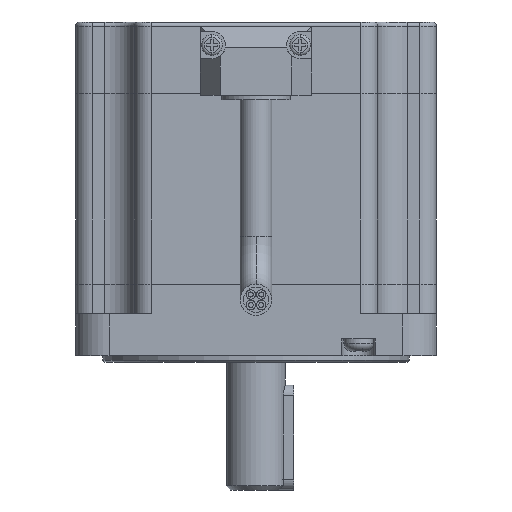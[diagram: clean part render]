
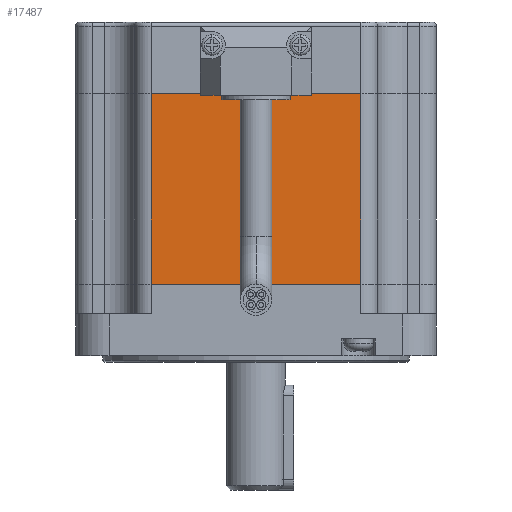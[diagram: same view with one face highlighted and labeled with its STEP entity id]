
A CAD part, front view. The second image highlights one B-rep face of the part: STEP entity #17487.
In plain terms, the highlighted planar face has unit normal (0, -1, 0).
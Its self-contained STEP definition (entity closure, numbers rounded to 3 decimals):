
#123 = VECTOR ( 'NONE', #10321, 1000. ) ;
#593 = VERTEX_POINT ( 'NONE', #3168 ) ;
#684 = LINE ( 'NONE', #1355, #11772 ) ;
#880 = EDGE_CURVE ( 'NONE', #18197, #17764, #7439, .T. ) ;
#1085 = EDGE_CURVE ( 'NONE', #593, #12977, #8999, .T. ) ;
#1294 = VECTOR ( 'NONE', #2419, 1000. ) ;
#1355 = CARTESIAN_POINT ( 'NONE',  ( -25., -43., 17.005 ) ) ;
#1437 = EDGE_CURVE ( 'NONE', #2286, #18197, #17653, .T. ) ;
#1490 = CARTESIAN_POINT ( 'NONE',  ( -8.25, -43., 62. ) ) ;
#1696 = CARTESIAN_POINT ( 'NONE',  ( 13.25, -43., 62. ) ) ;
#1697 = DIRECTION ( 'NONE',  ( 1., 0., 0. ) ) ;
#1766 = CARTESIAN_POINT ( 'NONE',  ( -8.25, -43., 61. ) ) ;
#1880 = ORIENTED_EDGE ( 'NONE', *, *, #7422, .T. ) ;
#2087 = CARTESIAN_POINT ( 'NONE',  ( 8.25, -43., 62. ) ) ;
#2286 = VERTEX_POINT ( 'NONE', #3124 ) ;
#2337 = EDGE_CURVE ( 'NONE', #18543, #21208, #21232, .T. ) ;
#2419 = DIRECTION ( 'NONE',  ( 0., 0., 1. ) ) ;
#2438 = ORIENTED_EDGE ( 'NONE', *, *, #2337, .F. ) ;
#2498 = VERTEX_POINT ( 'NONE', #10391 ) ;
#2918 = EDGE_LOOP ( 'NONE', ( #16956, #4158, #14154, #6804, #1880, #19034, #2925, #7041, #14309, #2438, #14664, #11436 ) ) ;
#2925 = ORIENTED_EDGE ( 'NONE', *, *, #1085, .T. ) ;
#3076 = VECTOR ( 'NONE', #3541, 1000. ) ;
#3124 = CARTESIAN_POINT ( 'NONE',  ( -13.25, -43., 62.49 ) ) ;
#3168 = CARTESIAN_POINT ( 'NONE',  ( 25., -43., 17.005 ) ) ;
#3541 = DIRECTION ( 'NONE',  ( 1., 0., 0. ) ) ;
#3680 = CARTESIAN_POINT ( 'NONE',  ( 13.25, -43., 62. ) ) ;
#4062 = AXIS2_PLACEMENT_3D ( 'NONE', #5359, #8590, #19863 ) ;
#4158 = ORIENTED_EDGE ( 'NONE', *, *, #880, .F. ) ;
#4204 = VERTEX_POINT ( 'NONE', #20692 ) ;
#4473 = DIRECTION ( 'NONE',  ( 0., 0., 1. ) ) ;
#5359 = CARTESIAN_POINT ( 'NONE',  ( 43., -43., 79.5 ) ) ;
#5449 = DIRECTION ( 'NONE',  ( -1., 0., 0. ) ) ;
#5638 = EDGE_CURVE ( 'NONE', #12977, #10955, #7598, .T. ) ;
#5789 = VERTEX_POINT ( 'NONE', #7068 ) ;
#6436 = VECTOR ( 'NONE', #16443, 1000. ) ;
#6717 = CARTESIAN_POINT ( 'NONE',  ( 8.25, -43., 61. ) ) ;
#6739 = LINE ( 'NONE', #19546, #13655 ) ;
#6804 = ORIENTED_EDGE ( 'NONE', *, *, #19804, .T. ) ;
#6867 = DIRECTION ( 'NONE',  ( 0., 0., 1. ) ) ;
#7041 = ORIENTED_EDGE ( 'NONE', *, *, #5638, .T. ) ;
#7068 = CARTESIAN_POINT ( 'NONE',  ( -8.25, -43., 61. ) ) ;
#7118 = CARTESIAN_POINT ( 'NONE',  ( 43., -43., 17.005 ) ) ;
#7422 = EDGE_CURVE ( 'NONE', #18431, #4204, #684, .T. ) ;
#7439 = LINE ( 'NONE', #16583, #3076 ) ;
#7598 = LINE ( 'NONE', #15448, #123 ) ;
#7865 = DIRECTION ( 'NONE',  ( -1., 0., 0. ) ) ;
#8151 = VECTOR ( 'NONE', #20035, 1000. ) ;
#8224 = VECTOR ( 'NONE', #1697, 1000. ) ;
#8269 = EDGE_CURVE ( 'NONE', #2498, #18543, #21177, .T. ) ;
#8545 = LINE ( 'NONE', #7118, #9088 ) ;
#8590 = DIRECTION ( 'NONE',  ( 0., 1., 0. ) ) ;
#8646 = EDGE_CURVE ( 'NONE', #593, #4204, #8545, .T. ) ;
#8999 = LINE ( 'NONE', #18038, #1294 ) ;
#9088 = VECTOR ( 'NONE', #5449, 1000. ) ;
#9466 = FACE_OUTER_BOUND ( 'NONE', #2918, .T. ) ;
#9535 = EDGE_CURVE ( 'NONE', #21208, #10955, #10832, .T. ) ;
#10321 = DIRECTION ( 'NONE',  ( -1., 0., 0. ) ) ;
#10391 = CARTESIAN_POINT ( 'NONE',  ( 8.25, -43., 61. ) ) ;
#10611 = DIRECTION ( 'NONE',  ( 0., 0., -1. ) ) ;
#10832 = LINE ( 'NONE', #11698, #6436 ) ;
#10836 = LINE ( 'NONE', #1766, #8224 ) ;
#10955 = VERTEX_POINT ( 'NONE', #15188 ) ;
#11028 = VECTOR ( 'NONE', #4473, 1000. ) ;
#11179 = CARTESIAN_POINT ( 'NONE',  ( -13.25, -43., 62. ) ) ;
#11264 = CARTESIAN_POINT ( 'NONE',  ( -8.25, -43., 61. ) ) ;
#11285 = LINE ( 'NONE', #11264, #11028 ) ;
#11354 = DIRECTION ( 'NONE',  ( 0., 0., -1. ) ) ;
#11436 = ORIENTED_EDGE ( 'NONE', *, *, #20946, .F. ) ;
#11698 = CARTESIAN_POINT ( 'NONE',  ( 13.25, -43., 78.5 ) ) ;
#11772 = VECTOR ( 'NONE', #11354, 1000. ) ;
#12059 = CARTESIAN_POINT ( 'NONE',  ( -13.25, -43., 78.5 ) ) ;
#12977 = VERTEX_POINT ( 'NONE', #14688 ) ;
#13655 = VECTOR ( 'NONE', #7865, 1000. ) ;
#13781 = CARTESIAN_POINT ( 'NONE',  ( -25., -43., 62.49 ) ) ;
#14154 = ORIENTED_EDGE ( 'NONE', *, *, #1437, .F. ) ;
#14309 = ORIENTED_EDGE ( 'NONE', *, *, #9535, .F. ) ;
#14664 = ORIENTED_EDGE ( 'NONE', *, *, #8269, .F. ) ;
#14688 = CARTESIAN_POINT ( 'NONE',  ( 25., -43., 62.49 ) ) ;
#15188 = CARTESIAN_POINT ( 'NONE',  ( 13.25, -43., 62.49 ) ) ;
#15448 = CARTESIAN_POINT ( 'NONE',  ( 0., -43., 62.49 ) ) ;
#15900 = VECTOR ( 'NONE', #10611, 1000. ) ;
#16443 = DIRECTION ( 'NONE',  ( 0., 0., 1. ) ) ;
#16583 = CARTESIAN_POINT ( 'NONE',  ( 13.25, -43., 62. ) ) ;
#16784 = VECTOR ( 'NONE', #6867, 1000. ) ;
#16828 = PLANE ( 'NONE',  #4062 ) ;
#16956 = ORIENTED_EDGE ( 'NONE', *, *, #17170, .T. ) ;
#17170 = EDGE_CURVE ( 'NONE', #5789, #17764, #11285, .T. ) ;
#17487 = ADVANCED_FACE ( 'NONE', ( #9466 ), #16828, .F. ) ;
#17653 = LINE ( 'NONE', #12059, #15900 ) ;
#17764 = VERTEX_POINT ( 'NONE', #1490 ) ;
#18038 = CARTESIAN_POINT ( 'NONE',  ( 25., -43., 62.49 ) ) ;
#18197 = VERTEX_POINT ( 'NONE', #11179 ) ;
#18431 = VERTEX_POINT ( 'NONE', #13781 ) ;
#18543 = VERTEX_POINT ( 'NONE', #2087 ) ;
#19034 = ORIENTED_EDGE ( 'NONE', *, *, #8646, .F. ) ;
#19546 = CARTESIAN_POINT ( 'NONE',  ( 0., -43., 62.49 ) ) ;
#19804 = EDGE_CURVE ( 'NONE', #2286, #18431, #6739, .T. ) ;
#19863 = DIRECTION ( 'NONE',  ( 0., 0., 1. ) ) ;
#20035 = DIRECTION ( 'NONE',  ( 1., 0., 0. ) ) ;
#20692 = CARTESIAN_POINT ( 'NONE',  ( -25., -43., 17.005 ) ) ;
#20946 = EDGE_CURVE ( 'NONE', #5789, #2498, #10836, .T. ) ;
#21177 = LINE ( 'NONE', #6717, #16784 ) ;
#21208 = VERTEX_POINT ( 'NONE', #3680 ) ;
#21232 = LINE ( 'NONE', #1696, #8151 ) ;
